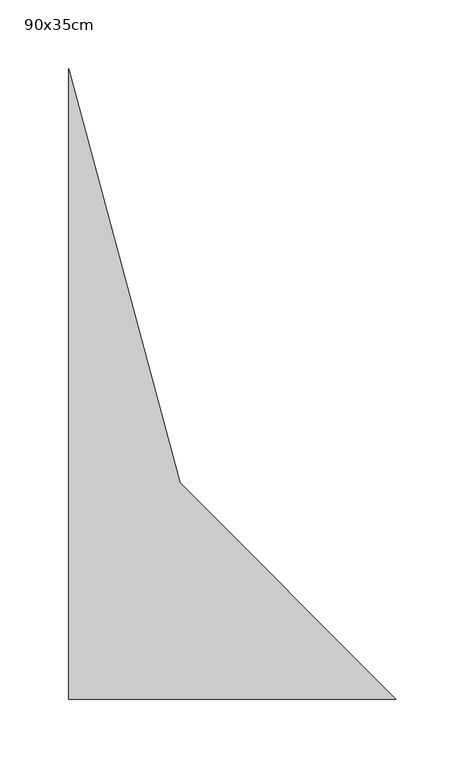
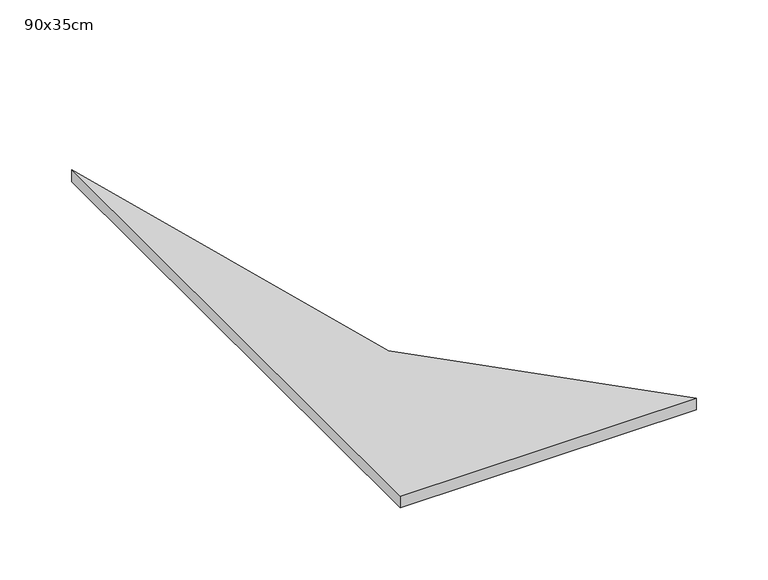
"""IFC4 building model written with IfcOpenShell, lengths in millimetres: flow terminal geometry, Trémie : 90x35cm."""

import ifcopenshell
import ifcopenshell.guid

model = None  # the IFC model being written
_history = None  # IfcOwnerHistory: only IFC2X3 demands one
_inside = {}  # id of a spatial element -> (the spatial element, [elements in it])
_under = {}  # id of a project, library or spatial element -> (it, [spatial elements below it])
_declared = {}  # id of a project -> (the project, [libraries it declares])
_typed = {}  # id of a type object -> (the type object, [elements of that type])
_made_of = {}  # id of a material, layer set ... -> (it, [elements and type objects made of it])


def new_model(schema):
    """Start an empty IFC model of exactly this schema.

    Asked for "IFC4X3", IfcOpenShell would pick the latest addendum, in which some entities
    have other attributes; the version numbers below select the first issue.
    IFC2X3 requires an IfcOwnerHistory on every rooted entity: one is made here for all.
    """
    global model, _history
    if schema == "IFC4X3":
        model = ifcopenshell.file(schema_version=(4, 3, 0, 0))
    else:
        model = ifcopenshell.file(schema=schema)
    _inside.clear()
    _under.clear()
    _declared.clear()
    _typed.clear()
    _made_of.clear()
    _history = None
    if model.schema == "IFC2X3":
        org = make("IfcOrganization", Name="unknown")
        user = make(
            "IfcPersonAndOrganization",
            ThePerson=make("IfcPerson", FamilyName="unknown"),
            TheOrganization=org,
        )
        app = make(
            "IfcApplication",
            ApplicationDeveloper=org,
            Version="unknown",
            ApplicationFullName="unknown",
            ApplicationIdentifier="unknown",
        )
        _history = make(
            "IfcOwnerHistory",
            OwningUser=user,
            OwningApplication=app,
            ChangeAction="ADDED",
            CreationDate=0,
        )
    return model


def make(cls, **values):
    """One entity of the class cls with the attributes given. An attribute that is None is left unset."""
    return model.create_entity(
        cls, **{name: value for name, value in values.items() if value is not None}
    )


def rooted(cls, **values):
    """An entity with a GlobalId (a new one), such as an element, a storey or a relation."""
    return make(cls, GlobalId=ifcopenshell.guid.new(), OwnerHistory=_history, **values)


def si_unit(unit_type, name, prefix=None):
    """IfcSIUnit, for example si_unit("LENGTHUNIT", "METRE", prefix="MILLI")."""
    return make("IfcSIUnit", UnitType=unit_type, Prefix=prefix, Name=name)


def assignment(units):
    """IfcUnitAssignment: the units of a project."""
    return None if units is None else make("IfcUnitAssignment", Units=units)


def point(xyz):
    """IfcCartesianPoint."""
    return None if xyz is None else make("IfcCartesianPoint", Coordinates=xyz)


def direction(xyz):
    """IfcDirection."""
    return None if xyz is None else make("IfcDirection", DirectionRatios=xyz)


def frame(location, z_axis=None, x_axis=None):
    """IfcAxis2Placement3D, a coordinate frame: its origin and axes. An axis left out is left unset."""
    return make(
        "IfcAxis2Placement3D",
        Location=point(location),
        Axis=direction(z_axis),
        RefDirection=direction(x_axis),
    )


def origin():
    """The frame at (0, 0, 0) with its axes left unset."""
    return frame((0.0, 0.0, 0.0))


def origin_with_axes():
    """The frame at (0, 0, 0) with the z axis (0, 0, 1) and the x axis (1, 0, 0) written out."""
    return frame((0.0, 0.0, 0.0), z_axis=(0.0, 0.0, 1.0), x_axis=(1.0, 0.0, 0.0))


def place(relative_to, where):
    """IfcLocalPlacement: puts the frame where relative to a parent placement (None: the world)."""
    return make(
        "IfcLocalPlacement", PlacementRelTo=relative_to, RelativePlacement=where
    )


def context(
    kind, dimensions, precision=None, world=None, true_north=None, identifier=None
):
    """IfcGeometricRepresentationContext, for example the 3D "Model" context."""
    return make(
        "IfcGeometricRepresentationContext",
        ContextIdentifier=identifier,
        ContextType=kind,
        CoordinateSpaceDimension=dimensions,
        Precision=precision,
        WorldCoordinateSystem=world,
        TrueNorth=true_north,
    )


def project(units=None, contexts=None):
    """IfcProject with its units and contexts."""
    return rooted(
        "IfcProject",
        Name="project",
        RepresentationContexts=contexts,
        UnitsInContext=assignment(units),
    )


def spatial(cls, under=None, at=None, **own):
    """A site, building, storey or space (cls), placed at a placement, below another one or the project."""
    s = rooted(cls, ObjectPlacement=at, **own)
    if under is not None:
        _under.setdefault(under.id(), (under, []))[1].append(s)
    return s


def polyline(points):
    """IfcPolyline through the points."""
    return make("IfcPolyline", Points=[point(p) for p in points])


def outline(outer, holes=None, kind="AREA"):
    """IfcArbitraryClosedProfileDef: a profile drawn as a closed curve; with holes, ...WithVoids."""
    if holes is None:
        return make("IfcArbitraryClosedProfileDef", ProfileType=kind, OuterCurve=outer)
    return make(
        "IfcArbitraryProfileDefWithVoids",
        ProfileType=kind,
        OuterCurve=outer,
        InnerCurves=holes,
    )


def extrude(swept, where, along, depth):
    """IfcExtrudedAreaSolid: the profile swept, set in the frame where, extruded along a direction by depth."""
    return make(
        "IfcExtrudedAreaSolid",
        SweptArea=swept,
        Position=where,
        ExtrudedDirection=direction(along),
        Depth=depth,
    )


def shape(context_of_items, identifier, shape_type, items):
    """IfcShapeRepresentation: the items that make up one representation, for example the "Body"."""
    return make(
        "IfcShapeRepresentation",
        ContextOfItems=context_of_items,
        RepresentationIdentifier=identifier,
        RepresentationType=shape_type,
        Items=items,
    )


def source(mapping_origin, context_of_items, identifier, shape_type, items):
    """IfcRepresentationMap: a shape defined once, which mapped items show again and again."""
    return make(
        "IfcRepresentationMap",
        MappingOrigin=mapping_origin,
        MappedRepresentation=shape(context_of_items, identifier, shape_type, items),
    )


def transform(
    local_origin,
    x_axis=None,
    y_axis=None,
    z_axis=None,
    scale=None,
    scale2=None,
    scale3=None,
    uniform=True,
):
    """IfcCartesianTransformationOperator3D, or its non-uniform kind. x_axis, y_axis, z_axis: its Axis1, 2, 3."""
    if uniform:
        return make(
            "IfcCartesianTransformationOperator3D",
            Axis1=direction(x_axis),
            Axis2=direction(y_axis),
            LocalOrigin=point(local_origin),
            Scale=scale,
            Axis3=direction(z_axis),
        )
    return make(
        "IfcCartesianTransformationOperator3DnonUniform",
        Axis1=direction(x_axis),
        Axis2=direction(y_axis),
        LocalOrigin=point(local_origin),
        Scale=scale,
        Axis3=direction(z_axis),
        Scale2=scale2,
        Scale3=scale3,
    )


def mapped(mapping_source, mapping_target):
    """IfcMappedItem: shows the shape of a source again, moved by a transform."""
    return make(
        "IfcMappedItem", MappingSource=mapping_source, MappingTarget=mapping_target
    )


def made_of(thing, what):
    """Note that an element or type object is made of a material, layer set ...; save() writes the relation."""
    if what is not None:
        _made_of.setdefault(what.id(), (what, []))[1].append(thing)
    return thing


def element(
    cls,
    number,
    at=None,
    inside=None,
    cuts=None,
    type_object=None,
    material=None,
    context=None,
    identifier="Body",
    shape_type=None,
    held_by="IfcProductDefinitionShape",
    body=None,
    shapes=None,
    **own,
):
    """One element of the class cls, such as IfcWall. Its Tag is "e" and its number.

    at: its placement. inside: the storey or other place that contains it. cuts: it is an
    opening in that element (IfcRelVoidsElement). A single representation is given by context,
    identifier, shape_type and body (its items); several are given by shapes. held_by: the class
    of the entity that holds the representations. save() writes the other relations.
    """
    e = rooted(cls, Tag="e%d" % number, ObjectPlacement=at, **own)
    if body is not None:
        shapes = [shape(context, identifier, shape_type, body)]
    if shapes is not None:
        e.Representation = make(held_by, Representations=shapes)
    if inside is not None:
        _inside.setdefault(inside.id(), (inside, []))[1].append(e)
    if cuts is not None:
        rooted(
            "IfcRelVoidsElement", RelatingBuildingElement=cuts, RelatedOpeningElement=e
        )
    if type_object is not None:
        _typed.setdefault(type_object.id(), (type_object, []))[1].append(e)
    return made_of(e, material)


def aggregate(whole, parts):
    """IfcRelAggregates: a whole, such as a stair, and the parts it consists of."""
    return rooted("IfcRelAggregates", RelatingObject=whole, RelatedObjects=parts)


def save(model, path):
    """Write the relations noted so far, then the file.

    IfcRelAggregates (storeys below a building ...), IfcRelContainedInSpatialStructure (elements
    in a storey), IfcRelDefinesByType, IfcRelAssociatesMaterial and IfcRelDeclares: one each for
    every whole, place, type object, material and project.
    """
    for whole, parts in _under.values():
        aggregate(whole, parts)
    for where, things in _inside.values():
        rooted(
            "IfcRelContainedInSpatialStructure",
            RelatedElements=things,
            RelatingStructure=where,
        )
    for kind, things in _typed.values():
        rooted("IfcRelDefinesByType", RelatedObjects=things, RelatingType=kind)
    for what, things in _made_of.values():
        rooted("IfcRelAssociatesMaterial", RelatedObjects=things, RelatingMaterial=what)
    for by, libraries in _declared.values():
        rooted("IfcRelDeclares", RelatingContext=by, RelatedDefinitions=libraries)
    model.write(path)


def flow_terminal_90x35cm_a3ebe495(model_context):
    return source(origin(), model_context, "Body", "SweptSolid", [
        extrude(outline(polyline([(413.0039733, 80.5), (175.0, 80.5), (175.0, 538.3541111), (256.0148221, 237.7519161), (413.0039733, 80.5)])), origin_with_axes(), (0.0, 0.0, 1.0), 10.0),
    ])


if __name__ == "__main__":
    model = new_model("IFC4")
    model_context = context("Model", 3, world=origin())
    ifc_project = project(units=[si_unit("LENGTHUNIT", "METRE", prefix="MILLI")], contexts=[model_context])
    site = spatial("IfcSite", under=ifc_project)
    building = spatial("IfcBuilding", under=site)
    placement = place(None, origin())
    flow_terminal_90x35cm_shape = flow_terminal_90x35cm_a3ebe495(model_context)
    element("IfcFlowTerminal", 1, ObjectType="Trémie : 90x35cm", at=placement, inside=building, context=model_context, shape_type="MappedRepresentation", body=[
        mapped(flow_terminal_90x35cm_shape, transform((0.0, 0.0, 0.0), x_axis=(1.0, 0.0, 0.0), y_axis=(0.0, 1.0, 0.0), z_axis=(0.0, 0.0, 1.0))),
    ])
    save(model, "model.ifc")
